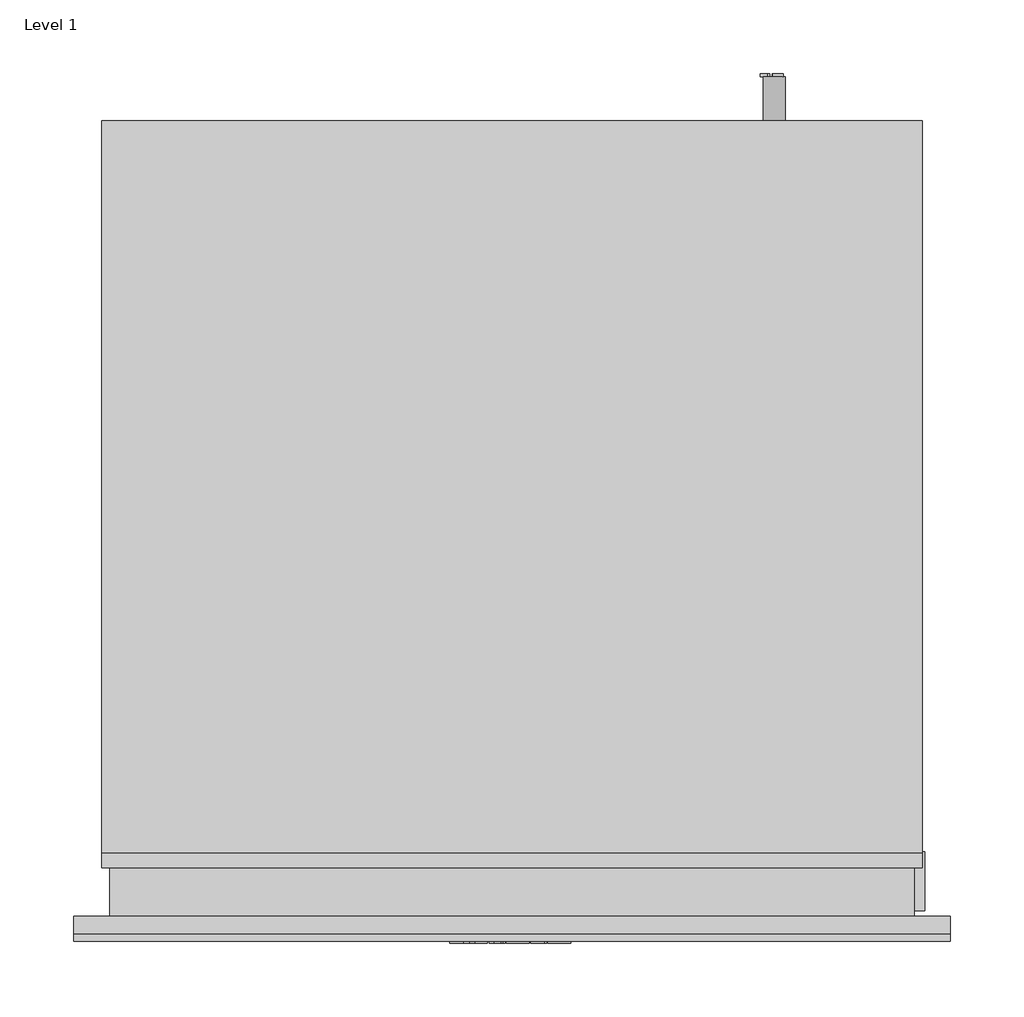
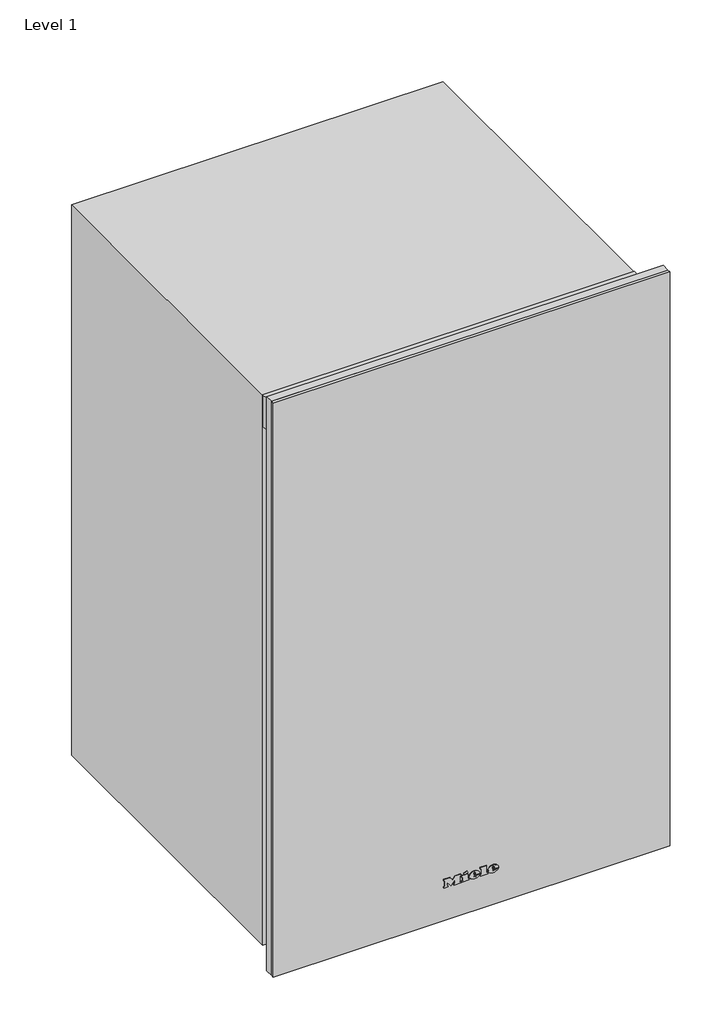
# One storey: 1 proxy.
"""IFC4 building model written with IfcOpenShell, lengths in millimetres."""

from ifc_helpers import new_model, si_unit, origin, place, context, project, spatial, transform, mapped, element, save
from components import specialty_equipment_af5a11c1

model = new_model("IFC4")

# Units and contexts
model_context = context("Model", 3, world=origin())
ifc_project = project(units=[si_unit("LENGTHUNIT", "METRE", prefix="MILLI")], contexts=[model_context])

# Site, building, storey
site = spatial("IfcSite", under=ifc_project)
building = spatial("IfcBuilding", under=site)
storey = spatial("IfcBuildingStorey", under=building, Name="Level 1", Elevation=0.0)

# Proxy
placement = place(None, origin())
specialty_equipment_shape = specialty_equipment_af5a11c1(model_context)
element("IfcBuildingElementProxy", 1, Name="10845470_OER_KWT6422iG_OBSW : 36642220_OER_10845470_KWT6422iG_OBSW", ObjectType="10845470_OER_KWT6422iG_OBSW : 36642220_OER_10845470_KWT6422iG_OBSW", at=placement, inside=storey, context=model_context, shape_type="MappedRepresentation", body=[
    mapped(specialty_equipment_shape, transform((0.0, 0.0, 0.0), x_axis=(1.0, 0.0, 0.0), y_axis=(0.0, 1.0, 0.0), z_axis=(0.0, 0.0, 1.0))),
])

save(model, "model.ifc")
